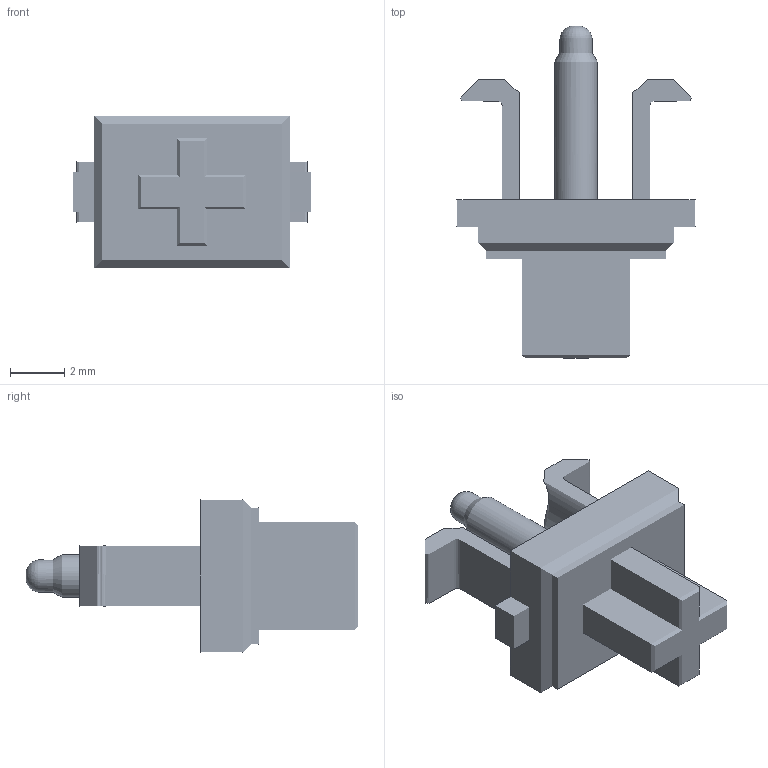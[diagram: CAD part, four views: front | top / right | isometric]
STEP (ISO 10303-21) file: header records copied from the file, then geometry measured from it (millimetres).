
FILE_DESCRIPTION(/* description */ ('STEP AP242 Edition 2','CAx-IF Rec.Pracs.---Representation and Presentation of Product Manufacturing Information (PMI)---4.0---2014-10-13','CAx-IF Rec.Pracs.---3D Tessellated Geometry---0.4---2014-09-14','2;1','CAx-IF Rec.Pracs.---User Defined Attributes---1.5---2016-08-15'),/* implementation_level */ '2;1');
FILE_NAME(/* name */ 'Assembly 1 - Part 110',/* time_stamp */ '2026-03-29T21:14:56Z',/* author */ (''),/* organization */ (''),/* preprocessor_version */ 'ST-DEVELOPER v20',/* originating_system */ 'ONSHAPE BY PTC INC, 1.212',/* authorisation */ ' ');
FILE_SCHEMA (('AP242_MANAGED_MODEL_BASED_3D_ENGINEERING_MIM_LF { 1 0 10303 442 3 1 4 }'));
Length unit declared in the file: metre
Products named in the file (1): Part 110
Bounding box: 8.76 x 12.2 x 5.61 mm (x, y, z)
Surface area: 297.5 mm2 (no closed solid volume)
Topology: 0 solids, 1 shells, 1 faces, 0 edges, 0 vertices
Faces by surface type: other 1
Entity records: 31 total; most frequent: DIRECTION 2, SHAPE_REPRESENTATION_RELATIONSHIP 1, TESSELLATED_SHAPE_REPRESENTATION 1, STYLED_ITEM 1, PRESENTATION_STYLE_ASSIGNMENT 1, SURFACE_STYLE_USAGE 1, SURFACE_SIDE_STYLE 1, SURFACE_STYLE_FILL_AREA 1
